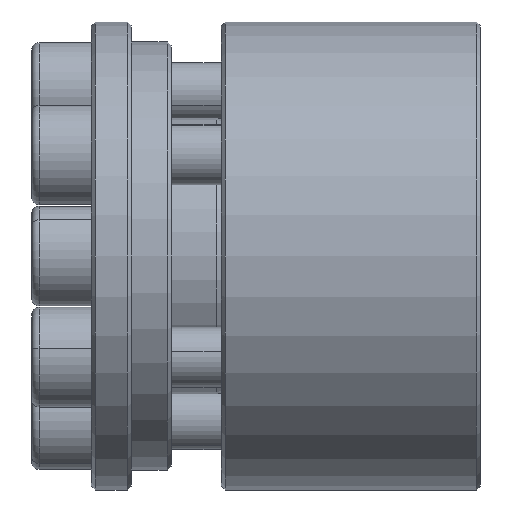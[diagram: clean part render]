
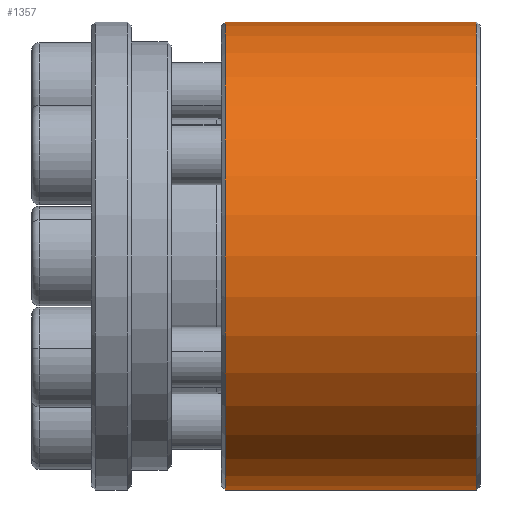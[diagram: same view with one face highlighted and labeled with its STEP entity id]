
A CAD part, front view. The second image highlights one B-rep face of the part: STEP entity #1357.
In plain terms, the highlighted cylindrical face has radius 23.46 mm (diameter 46.92 mm), a partial arc.
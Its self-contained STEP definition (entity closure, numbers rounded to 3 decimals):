
#23 = DIRECTION ( 'NONE',  ( 0., 0., -1. ) ) ;
#284 = DIRECTION ( 'NONE',  ( 0., 0., 1. ) ) ;
#299 = VERTEX_POINT ( 'NONE', #4247 ) ;
#387 = CARTESIAN_POINT ( 'NONE',  ( -67.166, 26.04, -23.46 ) ) ;
#753 = VERTEX_POINT ( 'NONE', #4208 ) ;
#788 = DIRECTION ( 'NONE',  ( 1., 0., 0. ) ) ;
#1168 = CIRCLE ( 'NONE', #1468, 23.46 ) ;
#1357 = ADVANCED_FACE ( 'NONE', ( #3850 ), #2939, .T. ) ;
#1415 = VECTOR ( 'NONE', #4327, 1000. ) ;
#1468 = AXIS2_PLACEMENT_3D ( 'NONE', #2401, #788, #23 ) ;
#1504 = DIRECTION ( 'NONE',  ( -1., 0., 0. ) ) ;
#1672 = ORIENTED_EDGE ( 'NONE', *, *, #2025, .T. ) ;
#1733 = ORIENTED_EDGE ( 'NONE', *, *, #5204, .T. ) ;
#2025 = EDGE_CURVE ( 'NONE', #753, #299, #2832, .T. ) ;
#2214 = ORIENTED_EDGE ( 'NONE', *, *, #5200, .T. ) ;
#2285 = DIRECTION ( 'NONE',  ( -1., 0., 0. ) ) ;
#2323 = DIRECTION ( 'NONE',  ( -1., 0., 0. ) ) ;
#2363 = VECTOR ( 'NONE', #2323, 1000. ) ;
#2386 = CARTESIAN_POINT ( 'NONE',  ( -92.766, 26.04, 23.46 ) ) ;
#2401 = CARTESIAN_POINT ( 'NONE',  ( -92.366, 26.04, 0. ) ) ;
#2696 = CARTESIAN_POINT ( 'NONE',  ( -67.166, 26.04, 0. ) ) ;
#2832 = LINE ( 'NONE', #2386, #1415 ) ;
#2861 = VERTEX_POINT ( 'NONE', #4354 ) ;
#2939 = CYLINDRICAL_SURFACE ( 'NONE', #5274, 23.46 ) ;
#3152 = VERTEX_POINT ( 'NONE', #387 ) ;
#3204 = LINE ( 'NONE', #4712, #2363 ) ;
#3360 = AXIS2_PLACEMENT_3D ( 'NONE', #2696, #2285, #284 ) ;
#3850 = FACE_OUTER_BOUND ( 'NONE', #5646, .T. ) ;
#3940 = CARTESIAN_POINT ( 'NONE',  ( -92.766, 26.04, 0. ) ) ;
#4208 = CARTESIAN_POINT ( 'NONE',  ( -67.166, 26.04, 23.46 ) ) ;
#4247 = CARTESIAN_POINT ( 'NONE',  ( -92.366, 26.04, 23.46 ) ) ;
#4327 = DIRECTION ( 'NONE',  ( -1., 0., 0. ) ) ;
#4354 = CARTESIAN_POINT ( 'NONE',  ( -92.366, 26.04, -23.46 ) ) ;
#4670 = CIRCLE ( 'NONE', #3360, 23.46 ) ;
#4712 = CARTESIAN_POINT ( 'NONE',  ( -92.766, 26.04, -23.46 ) ) ;
#4754 = EDGE_CURVE ( 'NONE', #3152, #2861, #3204, .T. ) ;
#5200 = EDGE_CURVE ( 'NONE', #3152, #753, #4670, .T. ) ;
#5204 = EDGE_CURVE ( 'NONE', #299, #2861, #1168, .T. ) ;
#5274 = AXIS2_PLACEMENT_3D ( 'NONE', #3940, #1504, #5831 ) ;
#5370 = ORIENTED_EDGE ( 'NONE', *, *, #4754, .F. ) ;
#5646 = EDGE_LOOP ( 'NONE', ( #5370, #2214, #1672, #1733 ) ) ;
#5831 = DIRECTION ( 'NONE',  ( 0., 0., 1. ) ) ;
